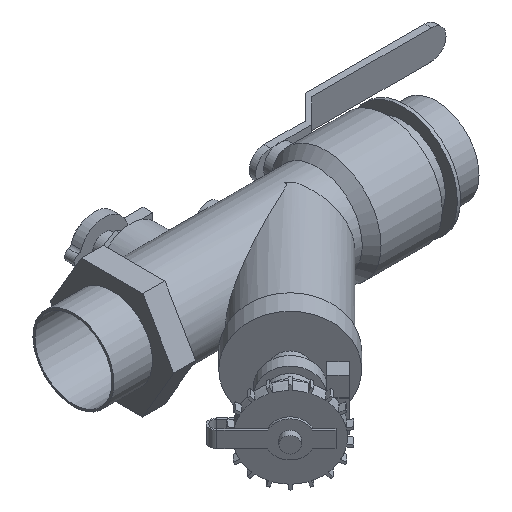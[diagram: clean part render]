
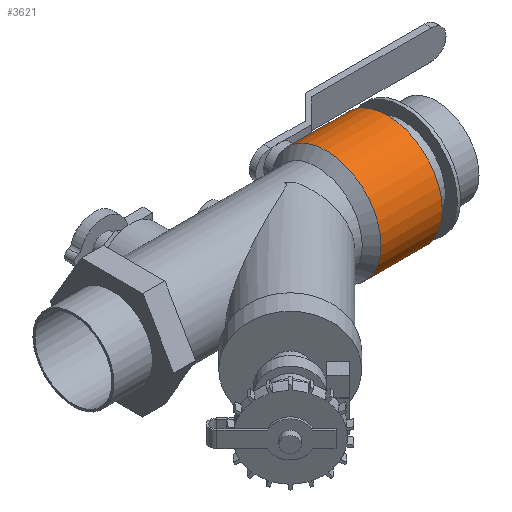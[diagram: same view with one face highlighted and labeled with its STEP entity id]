
A CAD part, isometric view. The second image highlights one B-rep face of the part: STEP entity #3621.
In plain terms, the highlighted cylindrical face has radius 43.053 mm (diameter 86.106 mm), a full revolution.
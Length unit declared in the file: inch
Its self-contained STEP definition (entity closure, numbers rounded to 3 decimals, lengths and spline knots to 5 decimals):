
#53=B_SPLINE_CURVE_WITH_KNOTS('',3,(#5624,#5625,#5626,#5627,#5628,#5629,
#5630,#5631,#5632,#5633),.UNSPECIFIED.,.F.,.F.,(4,2,2,2,4),(0.,0.4523,
0.90461,1.35682,1.80902),.UNSPECIFIED.);
#54=B_SPLINE_CURVE_WITH_KNOTS('',3,(#5634,#5635,#5636,#5637,#5638,#5639,
#5640,#5641,#5642,#5643,#5644,#5645,#5646,#5647,#5648,#5649,#5650,#5651,
#5652,#5653,#5654,#5655,#5656,#5657,#5658,#5659),.UNSPECIFIED.,.F.,.F.,
(4,2,2,2,2,2,2,2,2,2,2,2,4),(1.80902,2.26123,2.71344,
3.16574,3.61804,4.07035,4.52265,4.97486,
5.42707,5.87927,6.33148,6.78378,7.23609),
 .UNSPECIFIED.);
#82=FACE_BOUND('',#494,.T.);
#283=FACE_OUTER_BOUND('',#493,.T.);
#493=EDGE_LOOP('',(#2590,#2591,#2592,#2593,#2594,#2595));
#494=EDGE_LOOP('',(#2596,#2597));
#714=LINE('',#5889,#1044);
#1044=VECTOR('',#4440,1.695);
#1362=CIRCLE('',#3879,1.695);
#1363=CIRCLE('',#3880,1.695);
#1373=CIRCLE('',#3895,1.695);
#1374=CIRCLE('',#3896,1.695);
#1557=VERTEX_POINT('',#5621);
#1558=VERTEX_POINT('',#5623);
#1561=VERTEX_POINT('',#5667);
#1562=VERTEX_POINT('',#5669);
#1580=VERTEX_POINT('',#5880);
#1581=VERTEX_POINT('',#5881);
#1938=EDGE_CURVE('',#1558,#1557,#53,.T.);
#1939=EDGE_CURVE('',#1557,#1558,#54,.T.);
#1944=EDGE_CURVE('',#1561,#1562,#1362,.T.);
#1945=EDGE_CURVE('',#1562,#1561,#1363,.T.);
#1968=EDGE_CURVE('',#1580,#1581,#1373,.T.);
#1969=EDGE_CURVE('',#1581,#1580,#1374,.T.);
#1972=EDGE_CURVE('',#1561,#1581,#714,.T.);
#2590=ORIENTED_EDGE('',*,*,#1945,.F.);
#2591=ORIENTED_EDGE('',*,*,#1944,.F.);
#2592=ORIENTED_EDGE('',*,*,#1972,.T.);
#2593=ORIENTED_EDGE('',*,*,#1969,.T.);
#2594=ORIENTED_EDGE('',*,*,#1968,.T.);
#2595=ORIENTED_EDGE('',*,*,#1972,.F.);
#2596=ORIENTED_EDGE('',*,*,#1938,.T.);
#2597=ORIENTED_EDGE('',*,*,#1939,.T.);
#3444=CYLINDRICAL_SURFACE('',#3899,1.695);
#3621=ADVANCED_FACE('',(#283,#82),#3444,.T.);
#3879=AXIS2_PLACEMENT_3D('',#5670,#4391,#4392);
#3880=AXIS2_PLACEMENT_3D('',#5671,#4393,#4394);
#3895=AXIS2_PLACEMENT_3D('',#5882,#4430,#4431);
#3896=AXIS2_PLACEMENT_3D('',#5883,#4432,#4433);
#3899=AXIS2_PLACEMENT_3D('',#5888,#4438,#4439);
#4391=DIRECTION('center_axis',(-1.,0.,0.));
#4392=DIRECTION('ref_axis',(0.,0.,1.));
#4393=DIRECTION('center_axis',(-1.,0.,0.));
#4394=DIRECTION('ref_axis',(0.,0.,1.));
#4430=DIRECTION('center_axis',(-1.,0.,0.));
#4431=DIRECTION('ref_axis',(0.,0.,1.));
#4432=DIRECTION('center_axis',(-1.,0.,0.));
#4433=DIRECTION('ref_axis',(0.,0.,1.));
#4438=DIRECTION('center_axis',(-1.,0.,0.));
#4439=DIRECTION('ref_axis',(0.,1.,0.));
#4440=DIRECTION('',(1.,0.,0.));
#5621=CARTESIAN_POINT('',(1.37,1.695,0.));
#5623=CARTESIAN_POINT('',(0.9,1.62853,-0.47));
#5624=CARTESIAN_POINT('Ctrl Pts',(0.9,1.62853,-0.47));
#5625=CARTESIAN_POINT('Ctrl Pts',(0.95936,1.62853,-0.47));
#5626=CARTESIAN_POINT('Ctrl Pts',(1.02244,1.63212,-0.45807));
#5627=CARTESIAN_POINT('Ctrl Pts',(1.13814,1.64485,-0.41002));
#5628=CARTESIAN_POINT('Ctrl Pts',(1.19078,1.65379,-0.3739));
#5629=CARTESIAN_POINT('Ctrl Pts',(1.27389,1.67041,-0.29079));
#5630=CARTESIAN_POINT('Ctrl Pts',(1.31001,1.6792,-0.23815));
#5631=CARTESIAN_POINT('Ctrl Pts',(1.35808,1.69157,-0.12244));
#5632=CARTESIAN_POINT('Ctrl Pts',(1.37,1.695,-0.05934));
#5633=CARTESIAN_POINT('Ctrl Pts',(1.37,1.695,0.));
#5634=CARTESIAN_POINT('Ctrl Pts',(1.37,1.695,0.));
#5635=CARTESIAN_POINT('Ctrl Pts',(1.37,1.695,0.05934));
#5636=CARTESIAN_POINT('Ctrl Pts',(1.35808,1.69157,0.12244));
#5637=CARTESIAN_POINT('Ctrl Pts',(1.31001,1.6792,0.23815));
#5638=CARTESIAN_POINT('Ctrl Pts',(1.27389,1.67041,0.29079));
#5639=CARTESIAN_POINT('Ctrl Pts',(1.19078,1.65379,0.3739));
#5640=CARTESIAN_POINT('Ctrl Pts',(1.13814,1.64485,0.41002));
#5641=CARTESIAN_POINT('Ctrl Pts',(1.02244,1.63212,0.45807));
#5642=CARTESIAN_POINT('Ctrl Pts',(0.95936,1.62853,0.47));
#5643=CARTESIAN_POINT('Ctrl Pts',(0.84064,1.62853,0.47));
#5644=CARTESIAN_POINT('Ctrl Pts',(0.77756,1.63212,0.45807));
#5645=CARTESIAN_POINT('Ctrl Pts',(0.66186,1.64485,0.41002));
#5646=CARTESIAN_POINT('Ctrl Pts',(0.60922,1.65379,0.3739));
#5647=CARTESIAN_POINT('Ctrl Pts',(0.52611,1.67041,0.29079));
#5648=CARTESIAN_POINT('Ctrl Pts',(0.48999,1.6792,0.23815));
#5649=CARTESIAN_POINT('Ctrl Pts',(0.44192,1.69157,0.12244));
#5650=CARTESIAN_POINT('Ctrl Pts',(0.43,1.695,0.05934));
#5651=CARTESIAN_POINT('Ctrl Pts',(0.43,1.695,-0.05934));
#5652=CARTESIAN_POINT('Ctrl Pts',(0.44192,1.69157,-0.12244));
#5653=CARTESIAN_POINT('Ctrl Pts',(0.48999,1.6792,-0.23815));
#5654=CARTESIAN_POINT('Ctrl Pts',(0.52611,1.67041,-0.29079));
#5655=CARTESIAN_POINT('Ctrl Pts',(0.60922,1.65379,-0.3739));
#5656=CARTESIAN_POINT('Ctrl Pts',(0.66186,1.64485,-0.41002));
#5657=CARTESIAN_POINT('Ctrl Pts',(0.77756,1.63212,-0.45807));
#5658=CARTESIAN_POINT('Ctrl Pts',(0.84064,1.62853,-0.47));
#5659=CARTESIAN_POINT('Ctrl Pts',(0.9,1.62853,-0.47));
#5667=CARTESIAN_POINT('',(0.2,-1.695,0.));
#5669=CARTESIAN_POINT('',(0.2,1.695,0.));
#5670=CARTESIAN_POINT('Origin',(0.2,0.,0.));
#5671=CARTESIAN_POINT('Origin',(0.2,0.,0.));
#5880=CARTESIAN_POINT('',(2.09,1.695,0.));
#5881=CARTESIAN_POINT('',(2.09,-1.695,0.));
#5882=CARTESIAN_POINT('Origin',(2.09,0.,0.));
#5883=CARTESIAN_POINT('Origin',(2.09,0.,0.));
#5888=CARTESIAN_POINT('Origin',(1.145,0.,0.));
#5889=CARTESIAN_POINT('',(1.145,-1.695,0.));
